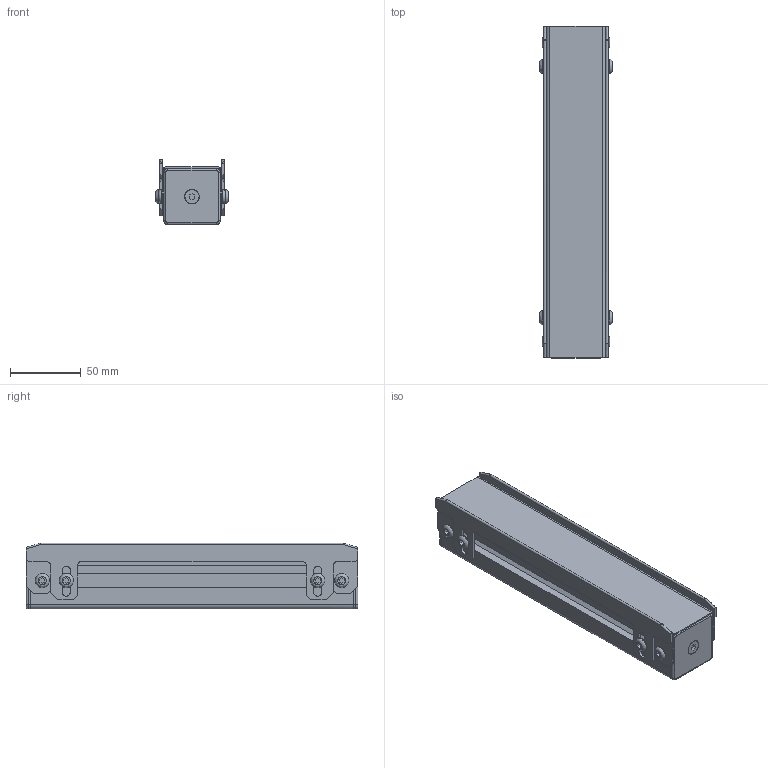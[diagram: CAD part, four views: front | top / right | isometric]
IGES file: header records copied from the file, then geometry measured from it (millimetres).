
Global section: file name: MGSS-FA-4040x235H; native system: unknown; preprocessor: unknown; author: unknown; organization: unknown; date: 20221215.125526; units: millimetre
Bounding box: 51.6 x 235 x 46.5 mm (x, y, z)
Volume: 188344.3 mm3; surface area: 164589.5 mm2
Topology: 16 solids, 16 shells, 352 faces, 936 edges, 618 vertices
Faces by surface type: bspline 352
